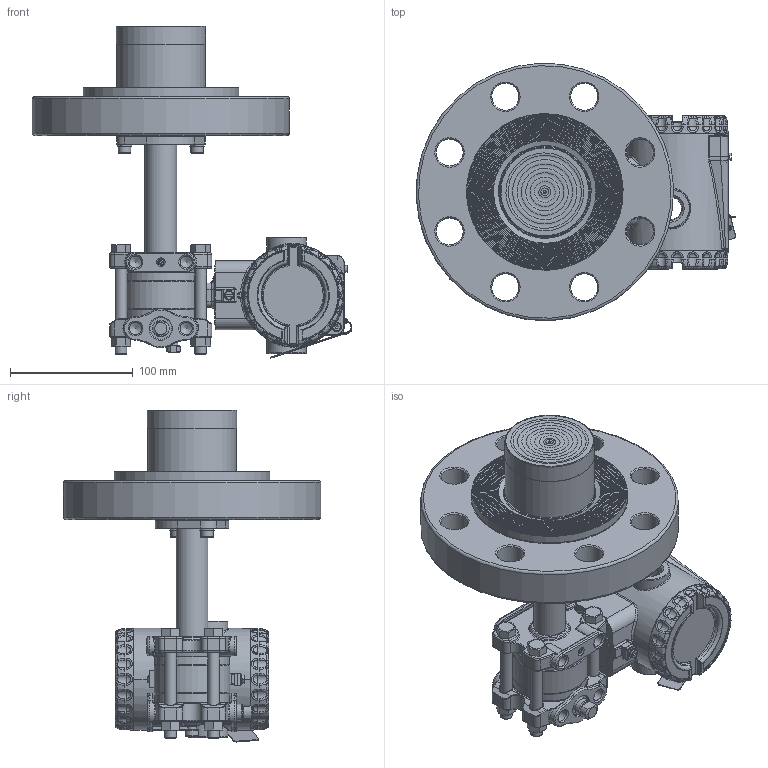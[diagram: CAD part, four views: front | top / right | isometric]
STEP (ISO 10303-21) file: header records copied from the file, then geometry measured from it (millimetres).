
FILE_DESCRIPTION(/* description */ (''),/* implementation_level */ '2;1');
FILE_NAME(/* name */ 'F:\Area\Desenvolvimento_2\Projects\Sensor\projetos\LD400-3d\dimensionais 3D clientes\LD400L\LD400L 3-600 RF ext 50 ref 1-4NPT purga acima.stp',/* time_stamp */ '2023-02-23T16:21:53-03:00',/* author */ ('inventor02'),/* organization */ (''),/* preprocessor_version */ 'ST-DEVELOPER v17',/* originating_system */ 'Autodesk Inventor 2019',/* authorisation */ '');
FILE_SCHEMA (('CONFIG_CONTROL_DESIGN'));
Products named in the file (41): LD30XL 3-600 RF ext 50 ref 1-4NPT purga acima; 204-0301-L-3 600 RF ext 50 purga acima; nivel fx3 com baixa diferencial 1-4NPT purga acima; involucro fx0-3 apos a usinagem final; flange diferencial std purga; 101-C-7484-01 flange selo nivel VR; 201-A-0504-tubo união teste 1; bujao 1-4NPT; Sangria; Porca 3-8 x 16 UNC; Paraf. 3-8 x 16 UNC; adaptação tubo x flanges 1-1-2 a 4pol; 101-B-0161-anel cortado do tubo - teste1; 101-B-0162-flange fixação tubo; ANSI B18.3.1M - M6x1 x 16; DIN 127 - A 6; flange 3 600 ext 50; 101-C-0129-12; 096-B-0199-14; 101-B-7701-02 ext 3-50; Carcaça 400 com tampas e plaqueta sem letras; 101-D-0845-05 carcaça LD400 sem letras; 101-B-3614-03-tampa 400 sem letras; Tampa visor 400 montada sem letras; 101-B-3612-05 tampa visor 400 sem letras; 101-A-6107; oring 2034; 00034775-0; WHW_250; DIN 915 - M6 x 10; Chapa aterramento externo; 201-A-1771-02 inserto terra recartilhado; AS 1969 - ST4,2; ISO 1207 - M4 x 8; ANSI B18.3.1M - M4x0,7 x 8; Subconjunto plaqueta 400; plaqueta 400 em branco; Parafuso da Plaqueta; Rebite da Plaqueta; 096-A-0169-03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
Assembly tree (50 placements, depth 4):
  LD30XL 3-600 RF ext 50 ref 1-4NPT purga acima
    204-0301-L-3 600 RF ext 50 purga acima
      nivel fx3 com baixa diferencial 1-4NPT purga acima
        involucro fx0-3 apos a usinagem final
        flange diferencial std purga
        101-C-7484-01 flange selo nivel VR
        201-A-0504-tubo união teste 1
        DIN 915 - M6 x 10
        bujao 1-4NPT
        Sangria
        Porca 3-8 x 16 UNC  x4
        Paraf. 3-8 x 16 UNC  x4
      adaptação tubo x flanges 1-1-2 a 4pol
        101-B-0161-anel cortado do tubo - teste1
        101-B-0162-flange fixação tubo
        ANSI B18.3.1M - M6x1 x 16  x2
        DIN 127 - A 6  x2
      flange 3 600 ext 50
        101-C-0129-12
        096-B-0199-14
        101-B-7701-02 ext 3-50
    Carcaça 400 com tampas e plaqueta sem letras
      101-D-0845-05 carcaça LD400 sem letras
      101-B-3614-03-tampa 400 sem letras
      Tampa visor 400 montada sem letras
        101-B-3612-05 tampa visor 400 sem letras
        101-A-6107
        oring 2034
        00034775-0
        WHW_250
      DIN 915 - M6 x 10
      Chapa aterramento externo
      201-A-1771-02 inserto terra recartilhado
      AS 1969 - ST4,2
      ISO 1207 - M4 x 8
      ANSI B18.3.1M - M4x0,7 x 8  x2
      Subconjunto plaqueta 400
        plaqueta 400 em branco
        Parafuso da Plaqueta
        Rebite da Plaqueta
        096-A-0169-03
        101-A-0502-01
Bounding box: 260.65 x 209.8 x 270.72 mm (x, y, z)
Volume: 1793309.4 mm3; surface area: 394450.9 mm2
Topology: 43 solids, 43 shells, 2809 faces, 6797 edges, 4087 vertices
Faces by surface type: plane 739, cylinder 668, bspline 605, torus 491, cone 230, sphere 76
Full cylindrical faces by diameter (mm): 2 x4, 2.1 x1, 2.2 x1, 2.459 x3, 2.5 x1, 2.7 x1, 2.8 x1, 3 x4, 3.242 x3, 3.5 x1, 3.571 x1, 4 x5, 4.3 x2, 4.4 x1, 4.917 x4, 5 x1, 5.5 x3, 6 x6, 6.1 x2, 6.2 x1, 6.647 x1, 7 x5, 7.6 x2, 7.798 x4, 8 x1, 9.525 x4, 9.728 x6, 10 x2, 10.5 x8, 10.719 x2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
Entity records: 99875 total; most frequent: CARTESIAN_POINT 37281, DIRECTION 12942, ORIENTED_EDGE 12834, EDGE_CURVE 6417, AXIS2_PLACEMENT_3D 5554, VERTEX_POINT 3893, CIRCLE 3233, EDGE_LOOP 2870
